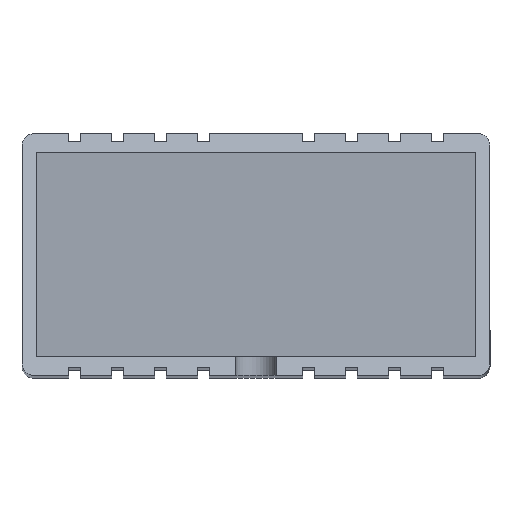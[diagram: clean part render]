
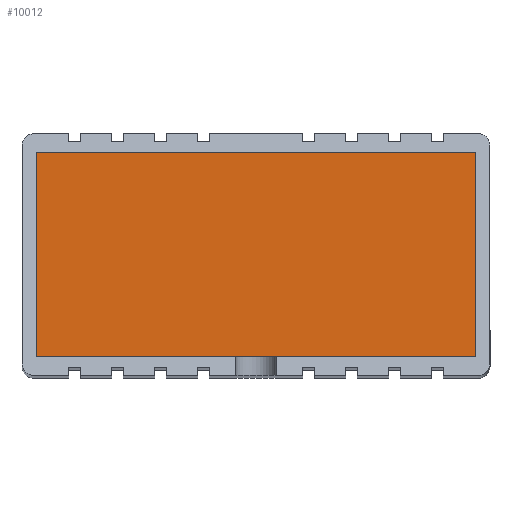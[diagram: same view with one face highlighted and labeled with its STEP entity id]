
A CAD part, top view. The second image highlights one B-rep face of the part: STEP entity #10012.
In plain terms, the highlighted planar face has unit normal (0, 0, 1).
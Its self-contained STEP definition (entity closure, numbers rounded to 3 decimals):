
#270=LINE($,#14143,#1202);
#271=LINE($,#14145,#1203);
#272=LINE($,#14147,#1204);
#273=LINE($,#14148,#1205);
#1202=VECTOR($,#11448,56.3);
#1203=VECTOR($,#11449,26.2);
#1204=VECTOR($,#11450,56.3);
#1205=VECTOR($,#11451,26.2);
#2133=PLANE($,#10545);
#2617=FACE_OUTER_BOUND($,#3115,.T.);
#3115=EDGE_LOOP($,(#6467,#6468,#6469,#6470));
#4105=VERTEX_POINT($,#14141);
#4106=VERTEX_POINT($,#14142);
#4107=VERTEX_POINT($,#14144);
#4108=VERTEX_POINT($,#14146);
#5043=EDGE_CURVE($,#4105,#4106,#270,.T.);
#5044=EDGE_CURVE($,#4107,#4105,#271,.T.);
#5045=EDGE_CURVE($,#4108,#4107,#272,.T.);
#5046=EDGE_CURVE($,#4106,#4108,#273,.T.);
#6467=ORIENTED_EDGE($,*,*,#5043,.F.);
#6468=ORIENTED_EDGE($,*,*,#5044,.F.);
#6469=ORIENTED_EDGE($,*,*,#5045,.F.);
#6470=ORIENTED_EDGE($,*,*,#5046,.F.);
#10012=ADVANCED_FACE($,(#2617),#2133,.F.);
#10545=AXIS2_PLACEMENT_3D($,#14140,#11446,#11447);
#11446=DIRECTION('center_axis',(0.,0.,
-1.));
#11447=DIRECTION('ref_axis',(-1.,0.,0.));
#11448=DIRECTION($,(-1.,0.,0.));
#11449=DIRECTION($,(0.,-1.,0.));
#11450=DIRECTION($,(1.,0.,0.));
#11451=DIRECTION($,(0.,1.,0.));
#14140=CARTESIAN_POINT('Origin',(-22.638,73.631,103.025));
#14141=CARTESIAN_POINT('',(5.512,60.531,103.025));
#14142=CARTESIAN_POINT('',(-50.788,60.531,103.025));
#14143=CARTESIAN_POINT($,(-36.713,60.531,103.025));
#14144=CARTESIAN_POINT('',(5.512,86.731,103.025));
#14145=CARTESIAN_POINT($,(5.512,67.081,103.025));
#14146=CARTESIAN_POINT('',(-50.788,86.731,103.025));
#14147=CARTESIAN_POINT($,(-8.563,86.731,103.025));
#14148=CARTESIAN_POINT($,(-50.788,80.181,103.025));
